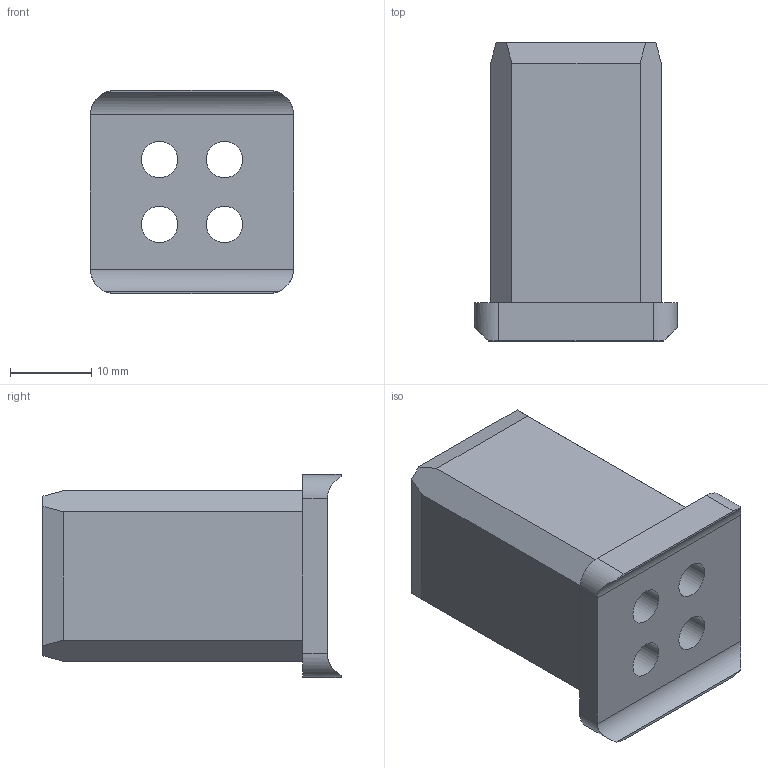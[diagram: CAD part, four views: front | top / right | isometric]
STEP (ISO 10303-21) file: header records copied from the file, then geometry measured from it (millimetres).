
FILE_DESCRIPTION (( 'STEP AP214' ), '1' );
FILE_NAME ('L15801.step', '2024-12-03T16:18:45', ( '' ), ( '' ), 'SwSTEP 2.0', 'SolidWorks 2023', '' );
FILE_SCHEMA (( 'AUTOMOTIVE_DESIGN' ));
Length unit declared in the file: millimetre
Products named in the file (1): L15801
Bounding box: 25 x 36.7 x 25 mm (x, y, z)
Volume: 7471.3 mm3; surface area: 6232.9 mm2
Topology: 1 solids, 1 shells, 36 faces, 92 edges, 60 vertices
Faces by surface type: plane 26, cylinder 10
Full cylindrical faces by diameter (mm): 4.5 x4
Entity records: 1099 total; most frequent: CARTESIAN_POINT 197, ORIENTED_EDGE 176, DIRECTION 174, EDGE_CURVE 88, LINE 68, VECTOR 68, VERTEX_POINT 60, AXIS2_PLACEMENT_3D 53
